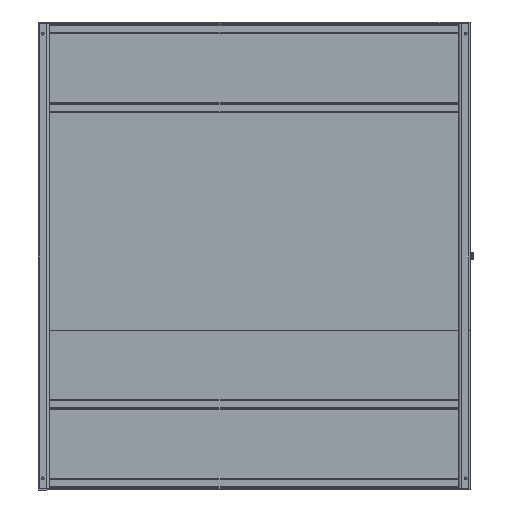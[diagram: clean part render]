
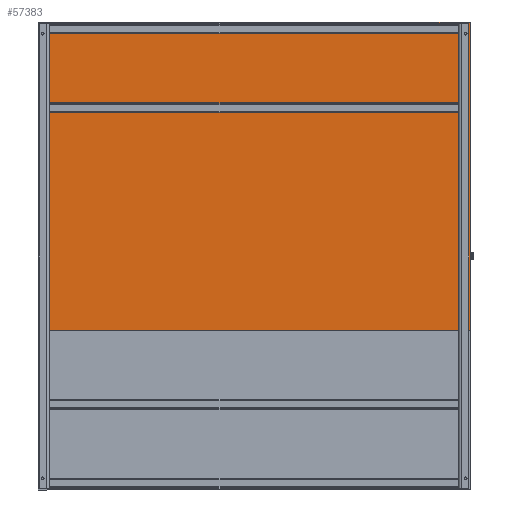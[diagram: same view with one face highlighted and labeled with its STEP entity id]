
A CAD part, front view. The second image highlights one B-rep face of the part: STEP entity #57383.
In plain terms, the highlighted planar face has unit normal (0, -1, 0).
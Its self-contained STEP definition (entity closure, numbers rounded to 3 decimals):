
#5193 = CARTESIAN_POINT ( 'NONE',  ( 38.408, -3.427, 26.386 ) ) ;
#5940 = PLANE ( 'NONE',  #17008 ) ;
#6387 = EDGE_CURVE ( 'NONE', #53523, #61447, #20722, .T. ) ;
#7398 = VECTOR ( 'NONE', #55379, 39.37 ) ;
#9207 = EDGE_CURVE ( 'NONE', #61447, #26734, #59331, .T. ) ;
#13352 = DIRECTION ( 'NONE',  ( 0., 0., -1. ) ) ;
#15616 = EDGE_CURVE ( 'NONE', #26734, #44129, #46615, .T. ) ;
#16112 = VECTOR ( 'NONE', #86456, 39.37 ) ;
#16379 = CARTESIAN_POINT ( 'NONE',  ( -45.592, -3.427, 26.386 ) ) ;
#17008 = AXIS2_PLACEMENT_3D ( 'NONE', #64544, #57462, #13352 ) ;
#18125 = LINE ( 'NONE', #79136, #57238 ) ;
#20722 = LINE ( 'NONE', #42415, #16112 ) ;
#20918 = ORIENTED_EDGE ( 'NONE', *, *, #9207, .F. ) ;
#26734 = VERTEX_POINT ( 'NONE', #95110 ) ;
#38285 = ORIENTED_EDGE ( 'NONE', *, *, #94583, .F. ) ;
#39772 = VECTOR ( 'NONE', #49664, 39.37 ) ;
#42415 = CARTESIAN_POINT ( 'NONE',  ( -45.592, -3.427, 26.386 ) ) ;
#44129 = VERTEX_POINT ( 'NONE', #50978 ) ;
#46615 = LINE ( 'NONE', #84917, #7398 ) ;
#49617 = DIRECTION ( 'NONE',  ( 0., 0., 1. ) ) ;
#49664 = DIRECTION ( 'NONE',  ( 0., 0., -1. ) ) ;
#50978 = CARTESIAN_POINT ( 'NONE',  ( -45.592, -3.427, -33.551 ) ) ;
#53523 = VERTEX_POINT ( 'NONE', #16379 ) ;
#55379 = DIRECTION ( 'NONE',  ( -1., 0., 0. ) ) ;
#57238 = VECTOR ( 'NONE', #49617, 39.37 ) ;
#57383 = ADVANCED_FACE ( 'NONE', ( #92947 ), #5940, .T. ) ;
#57462 = DIRECTION ( 'NONE',  ( 0., -1., 0. ) ) ;
#59331 = LINE ( 'NONE', #5193, #39772 ) ;
#61447 = VERTEX_POINT ( 'NONE', #64386 ) ;
#63570 = ORIENTED_EDGE ( 'NONE', *, *, #15616, .F. ) ;
#64386 = CARTESIAN_POINT ( 'NONE',  ( 38.408, -3.427, 26.386 ) ) ;
#64544 = CARTESIAN_POINT ( 'NONE',  ( -45.592, -3.427, -33.551 ) ) ;
#71359 = EDGE_LOOP ( 'NONE', ( #38285, #63570, #20918, #71454 ) ) ;
#71454 = ORIENTED_EDGE ( 'NONE', *, *, #6387, .F. ) ;
#79136 = CARTESIAN_POINT ( 'NONE',  ( -45.592, -3.427, 26.386 ) ) ;
#84917 = CARTESIAN_POINT ( 'NONE',  ( -45.592, -3.427, -33.551 ) ) ;
#86456 = DIRECTION ( 'NONE',  ( 1., 0., 0. ) ) ;
#92947 = FACE_OUTER_BOUND ( 'NONE', #71359, .T. ) ;
#94583 = EDGE_CURVE ( 'NONE', #44129, #53523, #18125, .T. ) ;
#95110 = CARTESIAN_POINT ( 'NONE',  ( 38.408, -3.427, -33.551 ) ) ;
